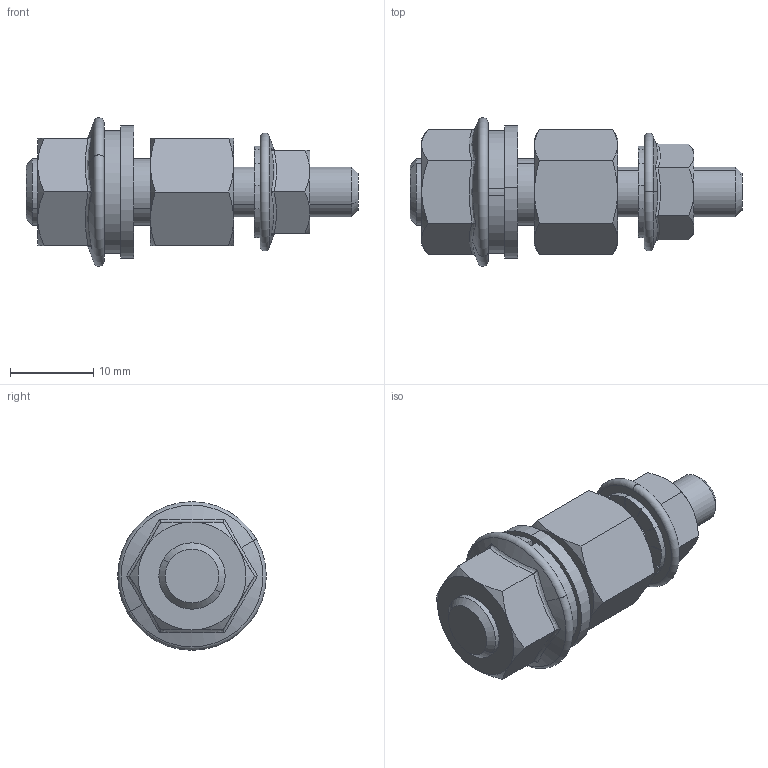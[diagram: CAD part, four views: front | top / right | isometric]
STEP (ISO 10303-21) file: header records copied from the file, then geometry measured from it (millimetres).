
FILE_DESCRIPTION (( 'STEP AP203' ), '1' );
FILE_NAME ('R5EP02 ñ ìåòèçàìè.STEP', '2020-08-14T07:12:54', ( '' ), ( '' ), 'SwSTEP 2.0', 'SolidWorks 2019', '' );
FILE_SCHEMA (( 'CONFIG_CONTROL_DESIGN' ));
Length unit declared in the file: millimetre
Products named in the file (7): M8 DIN 6923 cl.8,0 Zinc_thread; 8 DIN 125 A Zinc; 6 DIN 6798 A Zinc; R5EP02 ñ ìåòèçàìè; RB.1859.00.00.0_straight; 8 DIN 127 B Zinc; M6 DIN 6923 cl.8,0 Zinc_thread
Assembly tree (6 placements, depth 2):
  R5EP02 ñ ìåòèçàìè
    RB.1859.00.00.0_straight
    6 DIN 6798 A Zinc
    M6 DIN 6923 cl.8,0 Zinc_thread
    M8 DIN 6923 cl.8,0 Zinc_thread
    8 DIN 127 B Zinc
    8 DIN 125 A Zinc
Bounding box: 40 x 17.9 x 17.9 mm (x, y, z)
Volume: 4585 mm3; surface area: 3917.3 mm2
Topology: 6 solids, 6 shells, 235 faces, 555 edges, 310 vertices
Faces by surface type: cone 92, plane 58, cylinder 42, bspline 36, torus 7
Entity records: 8125 total; most frequent: CARTESIAN_POINT 2419, ORIENTED_EDGE 1062, DIRECTION 992, EDGE_CURVE 531, AXIS2_PLACEMENT_3D 393, VERTEX_POINT 310, EDGE_LOOP 245, FACE_OUTER_BOUND 235
